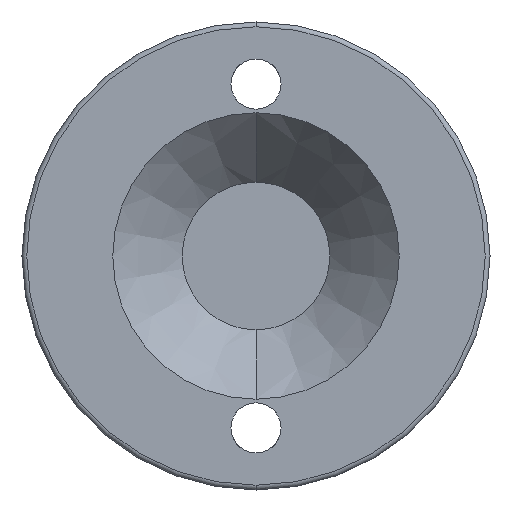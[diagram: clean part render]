
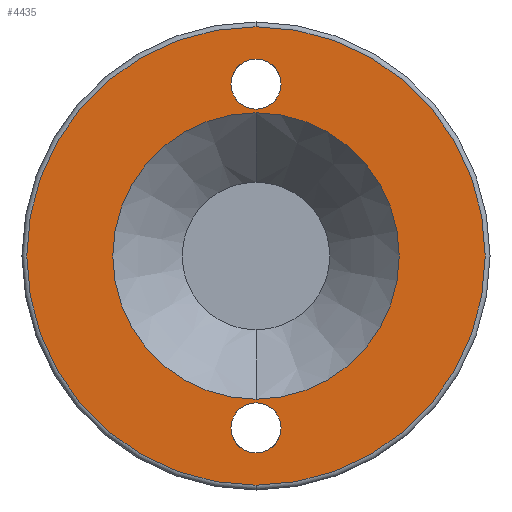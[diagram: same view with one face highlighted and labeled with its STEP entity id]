
A CAD part, front view. The second image highlights one B-rep face of the part: STEP entity #4435.
In plain terms, the highlighted planar face has unit normal (0, -1, 0).
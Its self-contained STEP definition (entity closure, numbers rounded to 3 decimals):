
#43 = EDGE_CURVE ( 'NONE', #7230, #8231, #7514, .T. ) ;
#242 = DIRECTION ( 'NONE',  ( 0., -1., 0. ) ) ;
#586 = AXIS2_PLACEMENT_3D ( 'NONE', #8771, #7210, #5649 ) ;
#1033 = CARTESIAN_POINT ( 'NONE',  ( 0., -21., 30. ) ) ;
#1040 = DIRECTION ( 'NONE',  ( 0., 0., -1. ) ) ;
#1229 = DIRECTION ( 'NONE',  ( 0., -1., 0. ) ) ;
#1416 = VERTEX_POINT ( 'NONE', #12287 ) ;
#1595 = AXIS2_PLACEMENT_3D ( 'NONE', #5347, #3761, #2170 ) ;
#1963 = VERTEX_POINT ( 'NONE', #12823 ) ;
#2117 = CARTESIAN_POINT ( 'NONE',  ( 49., -21., 0. ) ) ;
#2170 = DIRECTION ( 'NONE',  ( 0., 0., -1. ) ) ;
#2216 = CARTESIAN_POINT ( 'NONE',  ( 0., -21., 36. ) ) ;
#2291 = ORIENTED_EDGE ( 'NONE', *, *, #9787, .F. ) ;
#2334 = AXIS2_PLACEMENT_3D ( 'NONE', #2216, #12914, #11333 ) ;
#2409 = CIRCLE ( 'NONE', #14580, 5.25 ) ;
#2425 = EDGE_CURVE ( 'NONE', #10337, #14879, #9119, .T. ) ;
#2463 = ORIENTED_EDGE ( 'NONE', *, *, #5437, .F. ) ;
#2630 = DIRECTION ( 'NONE',  ( 0., -1., 0. ) ) ;
#2818 = CARTESIAN_POINT ( 'NONE',  ( 0., -21., -36. ) ) ;
#2829 = CARTESIAN_POINT ( 'NONE',  ( 0., -21., -41.25 ) ) ;
#3329 = CIRCLE ( 'NONE', #2334, 5.25 ) ;
#3347 = EDGE_LOOP ( 'NONE', ( #2463, #12454 ) ) ;
#3368 = EDGE_CURVE ( 'NONE', #1963, #11039, #3329, .T. ) ;
#3746 = CIRCLE ( 'NONE', #9664, 48. ) ;
#3761 = DIRECTION ( 'NONE',  ( 0., -1., 0. ) ) ;
#4064 = ORIENTED_EDGE ( 'NONE', *, *, #7936, .F. ) ;
#4435 = ADVANCED_FACE ( 'NONE', ( #10186, #13305, #6467, #7265 ), #5292, .T. ) ;
#5136 = AXIS2_PLACEMENT_3D ( 'NONE', #11862, #10275, #8684 ) ;
#5292 = PLANE ( 'NONE',  #7652 ) ;
#5347 = CARTESIAN_POINT ( 'NONE',  ( 0., -21., 0. ) ) ;
#5437 = EDGE_CURVE ( 'NONE', #11039, #1963, #2409, .T. ) ;
#5647 = ORIENTED_EDGE ( 'NONE', *, *, #2425, .F. ) ;
#5649 = DIRECTION ( 'NONE',  ( 0., 0., -1. ) ) ;
#5948 = ORIENTED_EDGE ( 'NONE', *, *, #12250, .T. ) ;
#6057 = DIRECTION ( 'NONE',  ( 0., 0., -1. ) ) ;
#6189 = EDGE_CURVE ( 'NONE', #13157, #1416, #3746, .T. ) ;
#6467 = FACE_OUTER_BOUND ( 'NONE', #11581, .T. ) ;
#6583 = CARTESIAN_POINT ( 'NONE',  ( 0., -21., -36. ) ) ;
#7185 = CARTESIAN_POINT ( 'NONE',  ( 0., -21., 30.75 ) ) ;
#7210 = DIRECTION ( 'NONE',  ( 0., -1., 0. ) ) ;
#7230 = VERTEX_POINT ( 'NONE', #10545 ) ;
#7265 = FACE_BOUND ( 'NONE', #12493, .T. ) ;
#7514 = CIRCLE ( 'NONE', #14174, 5.25 ) ;
#7622 = DIRECTION ( 'NONE',  ( 0., -1., 0. ) ) ;
#7652 = AXIS2_PLACEMENT_3D ( 'NONE', #2117, #2630, #1040 ) ;
#7936 = EDGE_CURVE ( 'NONE', #8231, #7230, #11004, .T. ) ;
#8231 = VERTEX_POINT ( 'NONE', #2829 ) ;
#8317 = EDGE_LOOP ( 'NONE', ( #4064, #14248 ) ) ;
#8684 = DIRECTION ( 'NONE',  ( 0., 0., -1. ) ) ;
#8771 = CARTESIAN_POINT ( 'NONE',  ( 0., -21., 0. ) ) ;
#9119 = CIRCLE ( 'NONE', #586, 30. ) ;
#9196 = CARTESIAN_POINT ( 'NONE',  ( 0., -21., 0. ) ) ;
#9211 = CARTESIAN_POINT ( 'NONE',  ( 0., -21., -48. ) ) ;
#9220 = CARTESIAN_POINT ( 'NONE',  ( 0., -21., -30. ) ) ;
#9655 = ORIENTED_EDGE ( 'NONE', *, *, #6189, .T. ) ;
#9664 = AXIS2_PLACEMENT_3D ( 'NONE', #9196, #7622, #6057 ) ;
#9787 = EDGE_CURVE ( 'NONE', #14879, #10337, #11291, .T. ) ;
#10186 = FACE_BOUND ( 'NONE', #8317, .T. ) ;
#10275 = DIRECTION ( 'NONE',  ( 0., -1., 0. ) ) ;
#10337 = VERTEX_POINT ( 'NONE', #1033 ) ;
#10525 = DIRECTION ( 'NONE',  ( 0., 0., -1. ) ) ;
#10545 = CARTESIAN_POINT ( 'NONE',  ( 0., -21., -30.75 ) ) ;
#11004 = CIRCLE ( 'NONE', #14745, 5.25 ) ;
#11039 = VERTEX_POINT ( 'NONE', #7185 ) ;
#11291 = CIRCLE ( 'NONE', #5136, 30. ) ;
#11333 = DIRECTION ( 'NONE',  ( 0., 0., -1. ) ) ;
#11581 = EDGE_LOOP ( 'NONE', ( #9655, #5948 ) ) ;
#11862 = CARTESIAN_POINT ( 'NONE',  ( 0., -21., 0. ) ) ;
#12091 = DIRECTION ( 'NONE',  ( 0., -1., 0. ) ) ;
#12250 = EDGE_CURVE ( 'NONE', #1416, #13157, #14707, .T. ) ;
#12287 = CARTESIAN_POINT ( 'NONE',  ( 0., -21., 48. ) ) ;
#12454 = ORIENTED_EDGE ( 'NONE', *, *, #3368, .F. ) ;
#12493 = EDGE_LOOP ( 'NONE', ( #2291, #5647 ) ) ;
#12823 = CARTESIAN_POINT ( 'NONE',  ( 0., -21., 41.25 ) ) ;
#12914 = DIRECTION ( 'NONE',  ( 0., -1., 0. ) ) ;
#13157 = VERTEX_POINT ( 'NONE', #9211 ) ;
#13305 = FACE_BOUND ( 'NONE', #3347, .T. ) ;
#13649 = CARTESIAN_POINT ( 'NONE',  ( 0., -21., 36. ) ) ;
#14075 = DIRECTION ( 'NONE',  ( 0., 0., 1. ) ) ;
#14174 = AXIS2_PLACEMENT_3D ( 'NONE', #2818, #1229, #15060 ) ;
#14248 = ORIENTED_EDGE ( 'NONE', *, *, #43, .F. ) ;
#14580 = AXIS2_PLACEMENT_3D ( 'NONE', #13649, #12091, #10525 ) ;
#14707 = CIRCLE ( 'NONE', #1595, 48. ) ;
#14745 = AXIS2_PLACEMENT_3D ( 'NONE', #6583, #242, #14075 ) ;
#14879 = VERTEX_POINT ( 'NONE', #9220 ) ;
#15060 = DIRECTION ( 'NONE',  ( 0., 0., 1. ) ) ;
